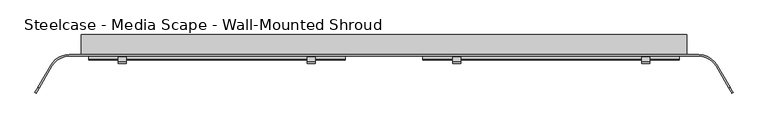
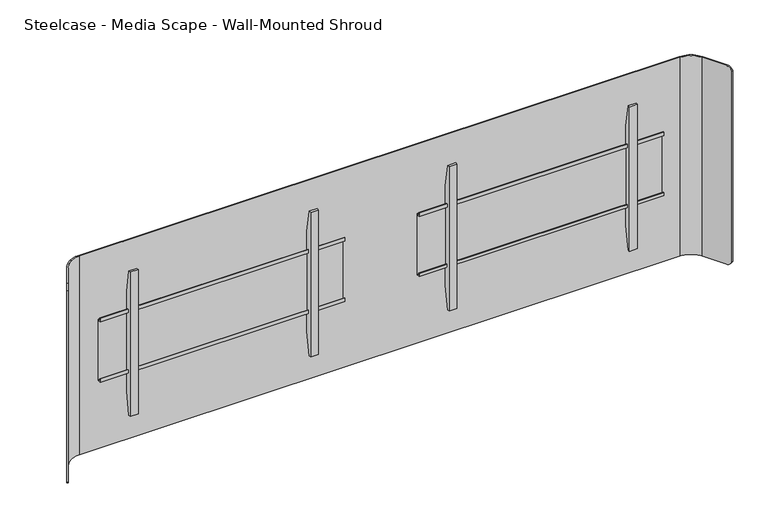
"""IFC4 building model written with IfcOpenShell, lengths in millimetres: furniture geometry, Steelcase - Media Scape - Wall-Mounted Shroud : Dual - 42in with CODEC Case."""

from ifc_helpers import new_model, si_unit, frame, origin, place, context, project, spatial, polyline, circle_curve, outline, extrude, source, transform, mapped, element, save
from ifc_brep_helpers import plane_surface, cylinder_surface, revolved_surface, advanced_brep


def steelcase_media_scape_wall_mounted_shroud_0ad77aa0(model_context):
    return source(origin(), model_context, "Body", "SolidModel", [
        extrude(outline(polyline([(1458.214, 960.0247345), (1458.214, -960.0247345), (912.1648167, -960.0247345), (912.1648167, 960.0247345), (1458.214, 960.0247345)]), holes=[polyline([(1456.7407333, -958.5006996), (1456.7407333, -898.0488663), (1394.7139516, -898.0488663), (1394.7139516, 896.4613663), (1456.7407333, 896.4613663), (1456.7407333, 958.5006996), (913.6887789, 958.5006996), (913.6887789, 896.4613663), (935.9772924, 896.4613663), (935.9772924, -898.0488663), (913.6887789, -898.0488663), (913.6887789, -958.5006996), (1456.7407333, -958.5006996)])]), frame((0.0, -25.4, 0.0), z_axis=(0.0, 1.0, 0.0), x_axis=(0.0, 0.0, 1.0)), (0.0, 0.0, 1.0), 63.5005882),
        extrude(outline(polyline([(-42.4942785, 1288.4504726), (-42.4942785, 1300.4645649), (-39.8272175, 1300.4645649), (-39.8272175, 1291.117461), (-29.9720009, 1291.117461), (-29.9720009, 1076.7922438), (-42.3164551, 1076.7922438), (-42.3164551, 1087.7142515), (-39.649394, 1087.7142515), (-39.649394, 1079.457052), (-32.6531824, 1079.457052), (-32.6531824, 1288.4504726), (-42.4942785, 1288.4504726)])), frame((123.571, 0.0, 0.0), z_axis=(1.0, 0.0, 0.0), x_axis=(0.0, 1.0, 0.0)), (0.0, 0.0, 1.0), 812.8),
        extrude(outline(polyline([(-32.6531824, 1359.3971148), (-32.6531824, 1007.5825607), (-46.5049349, 929.9546949), (-53.3399828, 929.9546949), (-53.3399828, 1437.9547192), (-46.5050076, 1437.9547192), (-32.6531824, 1359.3971148)])), frame((217.172426, 0.0, 0.0), z_axis=(1.0, 0.0, 0.0), x_axis=(0.0, 1.0, 0.0)), (0.0, 0.0, 1.0), 26.1592872),
        extrude(outline(polyline([(-32.6531824, 1359.3971148), (-32.6531824, 1007.5825607), (-46.5049349, 929.9546949), (-53.3399828, 929.9546949), (-53.3399828, 1437.9547192), (-46.5050076, 1437.9547192), (-32.6531824, 1359.3971148)])), frame((816.6102868, 0.0, 0.0), z_axis=(1.0, 0.0, 0.0), x_axis=(0.0, 1.0, 0.0)), (0.0, 0.0, 1.0), 26.1592872),
        extrude(outline(polyline([(-42.4942785, 1288.4504726), (-42.4942785, 1300.4645649), (-39.8272175, 1300.4645649), (-39.8272175, 1291.117461), (-29.9720009, 1291.117461), (-29.9720009, 1076.7922438), (-42.3164551, 1076.7922438), (-42.3164551, 1087.7142515), (-39.649394, 1087.7142515), (-39.649394, 1079.457052), (-32.6531824, 1079.457052), (-32.6531824, 1288.4504726), (-42.4942785, 1288.4504726)])), frame((-936.371, 0.0, 0.0), z_axis=(1.0, 0.0, 0.0), x_axis=(0.0, 1.0, 0.0)), (0.0, 0.0, 1.0), 812.8),
        extrude(outline(polyline([(-32.6531824, 1359.3971148), (-32.6531824, 1007.5825607), (-46.5049349, 929.9546949), (-53.3399828, 929.9546949), (-53.3399828, 1437.9547192), (-46.5050076, 1437.9547192), (-32.6531824, 1359.3971148)])), frame((-243.3317132, 0.0, 0.0), z_axis=(1.0, 0.0, 0.0), x_axis=(0.0, 1.0, 0.0)), (0.0, 0.0, 1.0), 26.1592872),
        extrude(outline(polyline([(-32.6531824, 1359.3971148), (-32.6531824, 1007.5825607), (-46.5049349, 929.9546949), (-53.3399828, 929.9546949), (-53.3399828, 1437.9547192), (-46.5050076, 1437.9547192), (-32.6531824, 1359.3971148)])), frame((-842.769574, 0.0, 0.0), z_axis=(1.0, 0.0, 0.0), x_axis=(0.0, 1.0, 0.0)), (0.0, 0.0, 1.0), 26.1592872),
        advanced_brep(
        [(-1052.9586135, -61.722, 1534.414), (-997.966002, -29.9720009, 1534.414), (997.966, -29.9720009, 1534.414), (1052.9586135, -61.722, 1534.414), (1093.079586, -131.2135628, 1534.414), (1097.0390541, -128.9275628, 1534.414), (1056.9180817, -59.436, 1534.414), (997.966002, -25.4, 1534.414), (-997.966, -25.4, 1534.414), (-1056.9180817, -59.436, 1534.414), (-1097.0421659, -128.9329524, 1534.414), (-1093.0826977, -131.2189524, 1534.414), (-1056.9180817, -59.436, 835.914), (-997.966002, -25.4, 835.914), (997.966, -25.4, 835.914), (1056.9180817, -59.436, 835.914), (1097.0906629, -129.0169518, 835.914), (1093.1311948, -131.3029518, 835.914), (1052.9586135, -61.722, 835.914), (997.966002, -29.9720009, 835.914), (-997.966, -29.9720009, 835.914), (-1052.9586135, -61.722, 835.914), (-1093.1454014, -131.3275584, 835.914), (-1097.1048695, -129.0415584, 835.914), (-1106.6090632, -145.5033047, 849.5242766), (-1106.6090632, -145.5033047, 1520.4227735), (-1102.6495951, -147.7893047, 1520.4227735), (-1102.6495951, -147.7893047, 849.5242766), (1102.6270866, -147.7503189, 849.4756893), (1102.6270866, -147.7503189, 1520.5433849), (1106.5865547, -145.4643189, 1520.5433849), (1106.5865547, -145.4643189, 849.4756893)],
        [
            (0, 1, circle_curve(frame((-997.966002, -93.4719991, 1534.414), z_axis=(0.0, 0.0, -1.0), x_axis=(0.0, 1.0, 0.0)), 63.4999981)),
            (1, 2),
            (2, 3, circle_curve(frame((997.966002, -93.4719991, 1534.414), z_axis=(0.0, 0.0, -1.0), x_axis=(0.0, 1.0, 0.0)), 63.4999981)),
            (3, 4),
            (4, 5),
            (5, 6),
            (6, 7, circle_curve(frame((997.9660004, -93.472, 1534.414), z_axis=(0.0, 0.0, 1.0), x_axis=(0.0, 1.0, 0.0)), 68.072)),
            (7, 8),
            (8, 9, circle_curve(frame((-997.9660004, -93.472, 1534.414), z_axis=(0.0, 0.0, 1.0), x_axis=(0.0, 1.0, 0.0)), 68.072)),
            (9, 10),
            (10, 11),
            (11, 0),
            (12, 13, circle_curve(frame((-997.9660004, -93.472, 835.914), z_axis=(0.0, 0.0, -1.0), x_axis=(0.0, 1.0, 0.0)), 68.072)),
            (13, 14),
            (14, 15, circle_curve(frame((997.9660004, -93.472, 835.914), z_axis=(0.0, 0.0, -1.0), x_axis=(0.0, 1.0, 0.0)), 68.072)),
            (15, 16),
            (16, 17),
            (17, 18),
            (18, 19, circle_curve(frame((997.966002, -93.4719991, 835.914), z_axis=(0.0, 0.0, 1.0), x_axis=(0.0, 1.0, 0.0)), 63.4999981)),
            (19, 20),
            (20, 21, circle_curve(frame((-997.966002, -93.4719991, 835.914), z_axis=(0.0, 0.0, 1.0), x_axis=(0.0, 1.0, 0.0)), 63.4999981)),
            (21, 22),
            (22, 23),
            (23, 12),
            (0, 21),
            (20, 1),
            (8, 13),
            (12, 9),
            (23, 24, circle_curve(frame((-1097.1048695, -129.0415584, 855.9928872), z_axis=(-0.8660254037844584, 0.49999999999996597, 0.0), x_axis=(-0.49999999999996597, -0.8660254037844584, 0.0)), 20.0788872)),
            (24, 25),
            (25, 10, circle_curve(frame((-1097.0421659, -128.9329524, 1514.3351128), z_axis=(-0.8660254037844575, 0.4999999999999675, 0.0), x_axis=(-0.4999999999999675, -0.8660254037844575, 0.0)), 20.0788872)),
            (26, 25),
            (24, 27),
            (27, 26),
            (11, 26, circle_curve(frame((-1093.0826977, -131.2189524, 1514.3351128), z_axis=(0.8660254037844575, -0.4999999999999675, 0.0), x_axis=(-0.4999999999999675, -0.8660254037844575, 0.0)), 20.0788872)),
            (27, 22, circle_curve(frame((-1093.1454014, -131.3275584, 855.9928872), z_axis=(0.8660254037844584, -0.49999999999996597, 0.0), x_axis=(-0.49999999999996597, -0.8660254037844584, 0.0)), 20.0788872)),
            (7, 14),
            (19, 2),
            (3, 18),
            (17, 28, circle_curve(frame((1093.1311948, -131.3029518, 855.9928872), z_axis=(-0.8660254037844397, -0.49999999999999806, 0.0), x_axis=(0.49999999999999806, -0.8660254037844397, 0.0)), 20.0788872)),
            (28, 29),
            (29, 4, circle_curve(frame((1093.079586, -131.2135628, 1514.3351128), z_axis=(-0.8660254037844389, -0.49999999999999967, 0.0), x_axis=(0.49999999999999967, -0.8660254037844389, 0.0)), 20.0788872)),
            (30, 29),
            (28, 31),
            (31, 30),
            (15, 6),
            (5, 30, circle_curve(frame((1097.0390541, -128.9275628, 1514.3351128), z_axis=(0.8660254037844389, 0.49999999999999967, 0.0), x_axis=(0.49999999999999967, -0.8660254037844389, 0.0)), 20.0788872)),
            (31, 16, circle_curve(frame((1097.0906629, -129.0169518, 855.9928872), z_axis=(0.8660254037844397, 0.49999999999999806, 0.0), x_axis=(0.49999999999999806, -0.8660254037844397, 0.0)), 20.0788872)),
        ],
        [
            plane_surface(frame((-997.966002, -29.9720009, 1534.414), z_axis=(0.0, 0.0, 1.0), x_axis=(1.0, 0.0, 0.0))),
            plane_surface(frame((-997.966002, -29.9720009, 835.914), z_axis=(0.0, 0.0, -1.0), x_axis=(-1.0, 0.0, 0.0))),
            revolved_surface(polyline([(-997.966002, -29.972001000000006, 835.914), (-997.966002, -29.972001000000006, 1534.414)]), (-997.966002, -93.4719991, 835.914), (0.0, 0.0, -1.0)),
            cylinder_surface(frame((-997.9660004, -93.472, 835.914), z_axis=(0.0, 0.0, 1.0), x_axis=(0.0, 1.0, 0.0)), 68.072),
            plane_surface(frame((-1056.9180817, -59.436, 1534.414), z_axis=(-0.8660254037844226, 0.5000000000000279, 0.0), x_axis=(0.0, 0.0, -1.0))),
            plane_surface(frame((-1106.6090632, -145.5033047, 1534.414), z_axis=(-0.5000000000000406, -0.8660254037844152, 0.0), x_axis=(0.0, 0.0, -1.0))),
            plane_surface(frame((-1102.6495951, -147.7893047, 1534.414), z_axis=(0.8660254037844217, -0.5000000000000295, 0.0), x_axis=(0.0, 0.0, -1.0))),
            plane_surface(frame((997.966, -25.4, 1534.414), z_axis=(0.0, 1.0, 0.0), x_axis=(0.0, 0.0, -1.0))),
            plane_surface(frame((-997.966, -29.9720009, 1534.414), z_axis=(0.0, -1.0, 0.0), x_axis=(0.0, 0.0, -1.0))),
            plane_surface(frame((1052.9586135, -61.722, 1534.414), z_axis=(-0.8660254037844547, -0.4999999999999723, 0.0), x_axis=(0.0, 0.0, -1.0))),
            plane_surface(frame((1102.6270866, -147.7503189, 1534.414), z_axis=(0.4999999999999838, -0.866025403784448, 0.0), x_axis=(0.0, 0.0, -1.0))),
            plane_surface(frame((1106.5865547, -145.4643189, 1534.414), z_axis=(0.8660254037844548, 0.49999999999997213, 0.0), x_axis=(0.0, 0.0, -1.0))),
            cylinder_surface(frame((997.9660004, -93.472, 835.914), z_axis=(0.0, 0.0, 1.0), x_axis=(0.0, 1.0, 0.0)), 68.072),
            revolved_surface(polyline([(997.966002, -29.972001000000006, 835.914), (997.966002, -29.972001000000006, 1534.414)]), (997.966002, -93.4719991, 835.914), (0.0, 0.0, -1.0)),
            cylinder_surface(frame((-1093.0826977, -131.2189524, 1514.3351128), z_axis=(0.8660254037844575, -0.4999999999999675, 0.0), x_axis=(-0.4999999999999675, -0.8660254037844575, 0.0)), 20.0788872),
            cylinder_surface(frame((-1093.1454014, -131.3275584, 855.9928872), z_axis=(0.8660254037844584, -0.49999999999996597, 0.0), x_axis=(-0.49999999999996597, -0.8660254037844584, 0.0)), 20.0788872),
            cylinder_surface(frame((1108.1864297, -122.4916225, 1514.3351128), z_axis=(0.8660254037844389, 0.49999999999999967, 0.0), x_axis=(0.49999999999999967, -0.8660254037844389, 0.0)), 20.0788872),
            cylinder_surface(frame((1105.3789695, -124.2316958, 855.9928872), z_axis=(0.8660254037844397, 0.49999999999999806, 0.0), x_axis=(0.49999999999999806, -0.8660254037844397, 0.0)), 20.0788872),
        ],
        [
            (0, [[1, 2, 3, 4, 5, 6, 7, 8, 9, 10, 11, 12]]),
            (1, [[13, 14, 15, 16, 17, 18, 19, 20, 21, 22, 23, 24]]),
            (2, [[-1, 25, -21, 26]]),
            (3, [[-9, 27, -13, 28]]),
            (4, [[-28, -24, 29, 30, 31, -10]]),
            (5, [[32, -30, 33, 34]]),
            (6, [[-25, -12, 35, -34, 36, -22]]),
            (7, [[-8, 37, -14, -27]]),
            (8, [[-2, -26, -20, 38]]),
            (9, [[39, -18, 40, 41, 42, -4]]),
            (10, [[43, -41, 44, 45]]),
            (11, [[46, -6, 47, -45, 48, -16]]),
            (12, [[-7, -46, -15, -37]]),
            (13, [[-3, -38, -19, -39]]),
            (14, [[-11, -31, -32, -35]]),
            (15, [[-23, -36, -33, -29]]),
            (16, [[-5, -42, -43, -47]]),
            (17, [[-17, -48, -44, -40]]),
        ],
    ),
    ])


if __name__ == "__main__":
    model = new_model("IFC4")
    model_context = context("Model", 3, world=origin())
    ifc_project = project(units=[si_unit("LENGTHUNIT", "METRE", prefix="MILLI")], contexts=[model_context])
    site = spatial("IfcSite", under=ifc_project)
    building = spatial("IfcBuilding", under=site)
    placement = place(None, origin())
    steelcase_media_scape_wall_mounted_shroud_shape = steelcase_media_scape_wall_mounted_shroud_0ad77aa0(model_context)
    element("IfcFurniture", 1, ObjectType="Steelcase - Media Scape - Wall-Mounted Shroud : Dual - 42in with CODEC Case", at=placement, inside=building, context=model_context, shape_type="MappedRepresentation", body=[
        mapped(steelcase_media_scape_wall_mounted_shroud_shape, transform((0.0, 0.0, 0.0), x_axis=(1.0, 0.0, 0.0), y_axis=(0.0, 1.0, 0.0), z_axis=(0.0, 0.0, 1.0))),
    ])
    save(model, "model.ifc")
